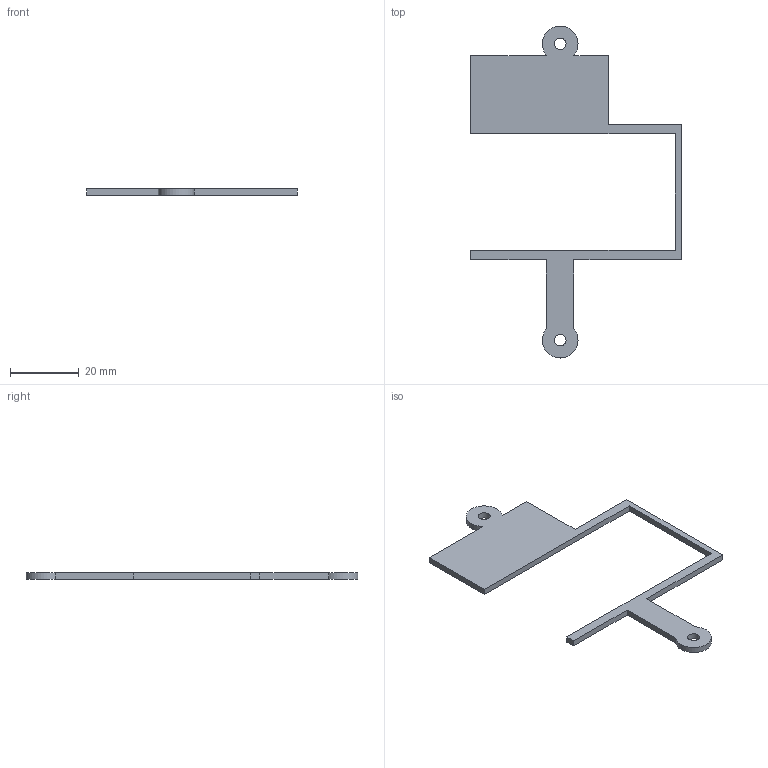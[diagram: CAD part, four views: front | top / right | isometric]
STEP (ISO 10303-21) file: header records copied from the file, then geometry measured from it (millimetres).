
FILE_DESCRIPTION(('Open CASCADE Model'),'2;1');
FILE_NAME('Open CASCADE Shape Model','2026-08-31T17:35:16',('Author'),( 'Open CASCADE'),'Open CASCADE STEP processor 7.8','Open CASCADE 7.8' ,'Unknown');
FILE_SCHEMA(('AUTOMOTIVE_DESIGN { 1 0 10303 214 1 1 1 1 }'));
Length unit declared in the file: millimetre
Products named in the file (1): Open CASCADE STEP translator 7.8 3
Bounding box: 61.2 x 96.4 x 1.8 mm (x, y, z)
Volume: 2677.8 mm3; surface area: 3789.6 mm2
Topology: 1 solids, 1 shells, 22 faces, 60 edges, 40 vertices
Faces by surface type: plane 18, cylinder 4
Full cylindrical faces by diameter (mm): 3.4 x2
Entity records: 1486 total; most frequent: CARTESIAN_POINT 301, DIRECTION 206, LINE 142, VECTOR 142, ORIENTED_EDGE 120, PCURVE 120, DEFINITIONAL_REPRESENTATION 120, EDGE_CURVE 60
